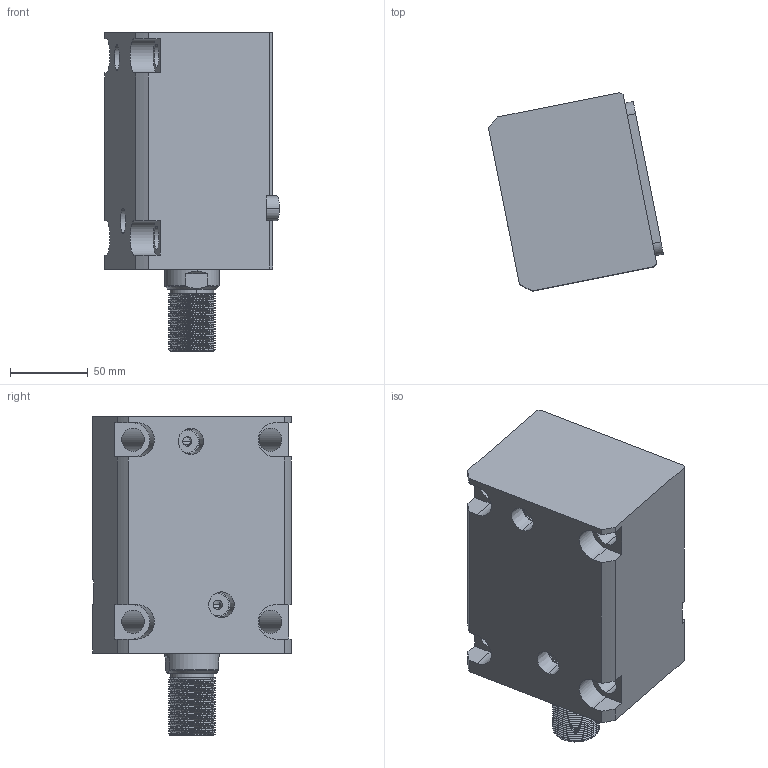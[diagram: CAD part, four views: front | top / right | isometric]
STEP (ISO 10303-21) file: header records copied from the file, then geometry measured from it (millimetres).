
FILE_DESCRIPTION (( 'STEP AP214' ), '1' );
FILE_NAME ('chtb-la63x85w_asm.STEP', '2018-05-17T03:10:43', ( 'Windows' ), ( 'Microsoft' ), 'SwSTEP 2.0', 'SolidWorks 2015', '' );
FILE_SCHEMA (( 'AUTOMOTIVE_DESIGN' ));
Length unit declared in the file: millimetre
Products named in the file (5): CHTB-LA63X85NBT; CHTB-LA63PJ; CHTB63X85WHSG; CHTB-63QG; chtb-la63x85w_asm
Assembly tree (4 placements, depth 2):
  chtb-la63x85w_asm
    CHTB-63QG
    CHTB63X85WHSG
    CHTB-LA63PJ
    CHTB-LA63X85NBT
Bounding box: 112.38 x 127.3 x 205 mm (x, y, z)
Volume: 1316423.8 mm3; surface area: 181813.8 mm2
Topology: 4 solids, 4 shells, 228 faces, 670 edges, 457 vertices
Faces by surface type: cylinder 147, plane 48, bspline 14, cone 13, torus 6
Entity records: 22769 total; most frequent: CARTESIAN_POINT 17126, ORIENTED_EDGE 1332, DIRECTION 940, EDGE_CURVE 666, VERTEX_POINT 457, AXIS2_PLACEMENT_3D 350, EDGE_LOOP 253, LINE 240
